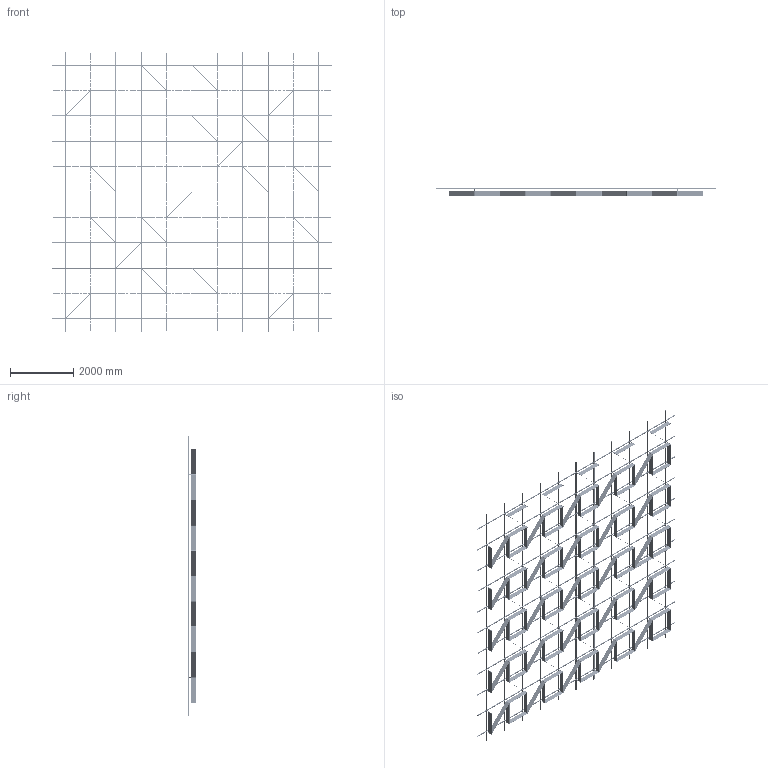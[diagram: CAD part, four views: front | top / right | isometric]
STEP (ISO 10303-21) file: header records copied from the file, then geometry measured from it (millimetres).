
FILE_DESCRIPTION (( 'STEP AP214' ), '1' );
FILE_NAME ('OPT_Var18.STEP', '2024-04-26T07:01:54', ( '' ), ( '' ), 'SwSTEP 2.0', 'SolidWorks 2020', '' );
FILE_SCHEMA (( 'AUTOMOTIVE_DESIGN' ));
Length unit declared in the file: millimetre
Products named in the file (5): Varp18; OPT_Var18; SS.SEMA.2400 - Ñèìà-ïðîôèëü; Ñèñòåìà â çîíå 8000õ8000; SS.SEMA.2400 - Ñèìà-ïðîôèëü — îáðåçàí 1600
Assembly tree (90 placements, depth 3):
  OPT_Var18
    Ñèñòåìà â çîíå 8000õ8000
      SS.SEMA.2400 - Ñèìà-ïðîôèëü  x66
      SS.SEMA.2400 - Ñèìà-ïðîôèëü — îáðåçàí 1600  x22
    Varp18
Bounding box: 8800 x 253 x 8800 mm (x, y, z)
Volume: 183199613.5 mm3; surface area: 76706556.4 mm2
Topology: 730 solids, 730 shells, 20040 faces, 54332 edges, 35752 vertices
Faces by surface type: cylinder 12818, plane 7222
Entity records: 105379 total; most frequent: CARTESIAN_POINT 32014, ORIENTED_EDGE 15512, DIRECTION 9434, EDGE_CURVE 7756, VERTEX_POINT 5160, B_SPLINE_CURVE_WITH_KNOTS 4848, AXIS2_PLACEMENT_3D 4468, EDGE_LOOP 4046
